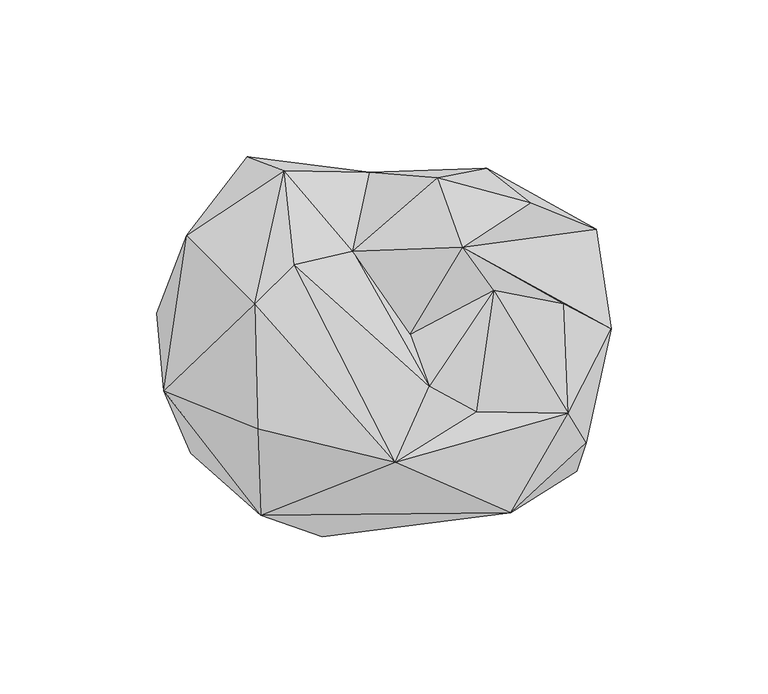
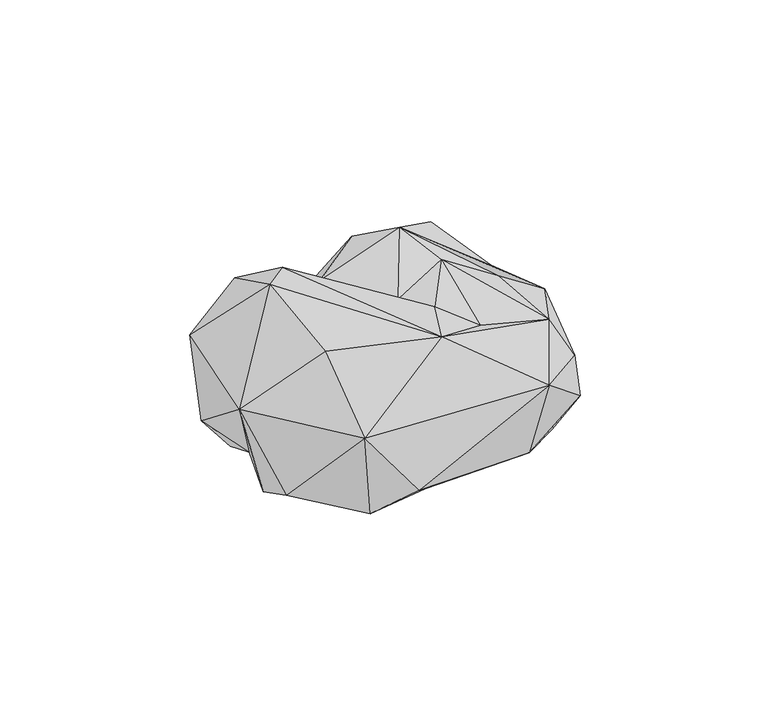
"""IFC4 building model written with IfcOpenShell, lengths in millimetres: geographic element geometry, Enscape AssetDefinition - Pastry : Enscape AssetDefinition - Pastry."""

from ifc_helpers import new_model, si_unit, origin, place, context, project, spatial, faceted_brep, source, transform, mapped, element, save


def geographic_element_1264376e(model_context):
    return source(origin(), model_context, "Body", "Brep", [
        faceted_brep([(-5.5709998, 55.0229996, 30.2510001), (-10.0929998, 54.5989983, 0.943), (-44.6950011, 59.9929988, 16.5890008), (-55.8289997, 19.2620009, 0.961), (15.7290008, 24.5869998, 7.3119998), (8.7230001, 49.8929992, 7.5059999), (-73.5500008, 10.0370003, 24.4379994), (-56.7080006, 3.4139999, 8.1630005), (-25.1139998, -13.9279999, 0.701), (59.6860014, 26.4730006, 0.75), (-7.7999998, -42.8880006, 2.5150001), (35.8989984, 41.4180011, 2.689), (31.7739993, 56.3459992, 20.9929999), (45.7069986, 45.3969985, 51.651001), (66.6659996, 36.8579999, 29.6829995), (16.0990003, 53.2930009, 50.7039987), (23.9889994, 31.1680008, 65.4309988), (71.4180022, 5.1950002, 36.5739986), (56.1989993, 13.0759999, 43.0519991), (33.8740014, 17.3930004, 55.6729995), (7.3250001, 3.45, 55.5920005), (-11.0409996, 29.7829993, 54.2879999), (-32.9109989, 55.4630011, 47.5299992), (-29.7180004, 25.6140009, 69.3110004), (13.4239998, -13.2539999, 59.9629991), (28.345, -21.3099997, 51.1769988), (2.4989999, -37.4710001, 64.7699982), (-42.2560014, 13.0719999, 73.6669973), (-64.0140027, 34.9400006, 45.0670011), (-71.3960007, -14.6930004, 43.7339991), (-41.3959995, -26.7319996, 67.0669973), (-62.7269968, -34.5470011, 13.766), (-63.2449985, -18.2869993, 5.7000001), (-40.3800011, -54.2760007, 43.6739996), (39.4079983, -53.5629988, 39.5339988), (-20.8289996, -61.2769984, 17.4790006), (-37.7539992, -53.8580008, 8.2379999), (53.2980002, -31.3259996, 0.844), (32.9819992, -49.8839989, 8.7879999), (60.4569986, -40.3719991, 19.266), (65.0499985, -5.3099999, 2.1599999), (63.4630024, -31.1689992, 31.2339999), (57.767, -21.807, 43.9089984)], [[[0, 1, 2]], [[3, 2, 1]], [[4, 1, 5]], [[1, 0, 5]], [[4, 3, 1]], [[3, 6, 2]], [[7, 6, 3]], [[4, 8, 3]], [[3, 8, 7]], [[9, 10, 4]], [[4, 11, 9]], [[4, 5, 11]], [[8, 4, 10]], [[12, 11, 5]], [[0, 12, 5]], [[12, 9, 11]], [[12, 13, 14]], [[9, 12, 14]], [[0, 15, 12]], [[12, 15, 13]], [[15, 16, 13]], [[16, 14, 13]], [[16, 17, 14]], [[14, 17, 9]], [[16, 18, 17]], [[18, 16, 19]], [[19, 16, 20]], [[21, 20, 16]], [[21, 16, 15]], [[21, 15, 0]], [[22, 0, 2]], [[21, 0, 22]], [[21, 23, 24]], [[21, 24, 20]], [[23, 21, 22]], [[20, 24, 19]], [[25, 24, 26]], [[24, 23, 26]], [[25, 19, 24]], [[22, 27, 23]], [[26, 23, 27]], [[2, 28, 22]], [[27, 22, 28]], [[28, 2, 6]], [[29, 27, 28]], [[6, 29, 28]], [[29, 30, 27]], [[26, 27, 30]], [[31, 29, 32]], [[29, 6, 7]], [[33, 30, 29]], [[31, 33, 29]], [[32, 29, 7]], [[26, 30, 33]], [[26, 33, 34]], [[33, 35, 34]], [[36, 35, 33]], [[33, 31, 36]], [[31, 10, 36]], [[32, 10, 31]], [[8, 10, 32]], [[32, 7, 8]], [[10, 35, 36]], [[10, 9, 37]], [[10, 38, 35]], [[38, 10, 37]], [[38, 34, 35]], [[37, 39, 38]], [[39, 34, 38]], [[37, 40, 39]], [[9, 40, 37]], [[17, 40, 9]], [[41, 39, 40]], [[17, 41, 40]], [[34, 39, 41]], [[41, 17, 42]], [[42, 34, 41]], [[17, 18, 42]], [[25, 26, 42]], [[42, 19, 25]], [[42, 26, 34]], [[18, 19, 42]]]),
    ])


if __name__ == "__main__":
    model = new_model("IFC4")
    model_context = context("Model", 3, world=origin())
    ifc_project = project(units=[si_unit("LENGTHUNIT", "METRE", prefix="MILLI")], contexts=[model_context])
    site = spatial("IfcSite", under=ifc_project)
    building = spatial("IfcBuilding", under=site)
    placement = place(None, origin())
    geographic_element_shape = geographic_element_1264376e(model_context)
    element("IfcGeographicElement", 1, ObjectType="Enscape AssetDefinition - Pastry : Enscape AssetDefinition - Pastry", at=placement, inside=building, context=model_context, shape_type="MappedRepresentation", body=[
        mapped(geographic_element_shape, transform((0.0, 0.0, 0.0), x_axis=(1.0, 0.0, 0.0), y_axis=(0.0, 1.0, 0.0), z_axis=(0.0, 0.0, 1.0))),
    ])
    save(model, "model.ifc")
